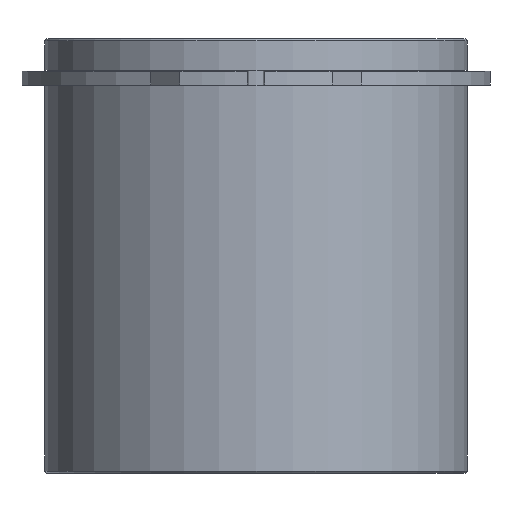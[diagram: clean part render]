
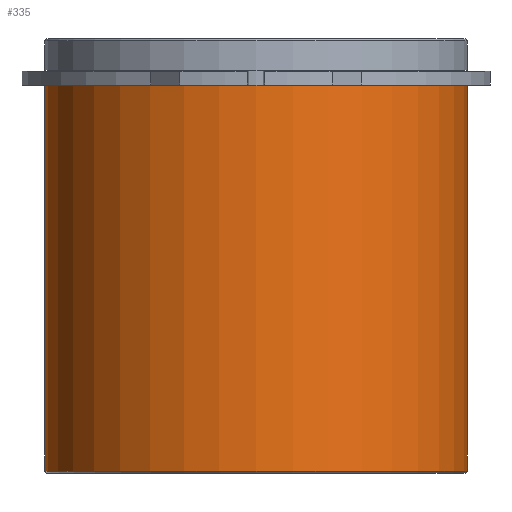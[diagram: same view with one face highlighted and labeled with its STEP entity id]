
A CAD part, front view. The second image highlights one B-rep face of the part: STEP entity #335.
In plain terms, the highlighted cylindrical face has radius 30.625 mm (diameter 61.25 mm), a partial arc.
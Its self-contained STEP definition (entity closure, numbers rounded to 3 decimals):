
#294=CARTESIAN_POINT('',(0.0,0.,-28.));
#295=DIRECTION('',(0.0,0.,1.0));
#296=DIRECTION('',(1.0,0.0,0.0));
#297=AXIS2_PLACEMENT_3D('',#294,#295,#296);
#298=CYLINDRICAL_SURFACE('',#297,30.625);
#299=CARTESIAN_POINT('',(30.625,0.0,0.0));
#300=VERTEX_POINT('',#299);
#301=CARTESIAN_POINT('',(30.625,0.,-56.0));
#302=VERTEX_POINT('',#301);
#303=CARTESIAN_POINT('',(30.625,0.0,0.0));
#304=DIRECTION('',(0.0,0.0,-1.0));
#305=VECTOR('',#304,56.0);
#306=LINE('',#303,#305);
#307=EDGE_CURVE('',#300,#302,#306,.T.);
#308=ORIENTED_EDGE('',*,*,#307,.F.);
#309=CARTESIAN_POINT('',(-30.625,0.,0.0));
#310=VERTEX_POINT('',#309);
#311=CARTESIAN_POINT('',(0.0,0.0,0.0));
#312=DIRECTION('',(0.0,0.0,1.0));
#313=DIRECTION('',(1.0,0.0,0.0));
#314=AXIS2_PLACEMENT_3D('',#311,#312,#313);
#315=CIRCLE('',#314,30.625);
#316=EDGE_CURVE('',#310,#300,#315,.T.);
#317=ORIENTED_EDGE('',*,*,#316,.F.);
#318=CARTESIAN_POINT('',(-30.625,0.,-56.));
#319=VERTEX_POINT('',#318);
#320=CARTESIAN_POINT('',(-30.625,0.,0.0));
#321=DIRECTION('',(0.0,0.0,-1.0));
#322=VECTOR('',#321,56.);
#323=LINE('',#320,#322);
#324=EDGE_CURVE('',#310,#319,#323,.T.);
#325=ORIENTED_EDGE('',*,*,#324,.T.);
#326=CARTESIAN_POINT('',(0.0,0.,-56.0));
#327=DIRECTION('',(0.0,0.0,1.0));
#328=DIRECTION('',(1.0,0.0,0.0));
#329=AXIS2_PLACEMENT_3D('',#326,#327,#328);
#330=CIRCLE('',#329,30.625);
#331=EDGE_CURVE('',#319,#302,#330,.T.);
#332=ORIENTED_EDGE('',*,*,#331,.T.);
#333=EDGE_LOOP('',(#308,#317,#325,#332));
#334=FACE_OUTER_BOUND('',#333,.T.);
#335=ADVANCED_FACE('',(#334),#298,.T.);
